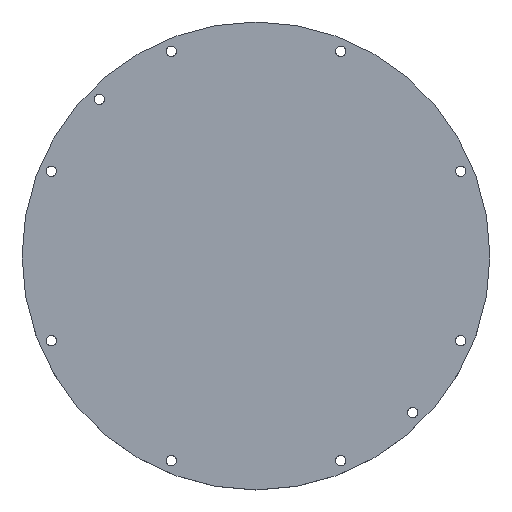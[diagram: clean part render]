
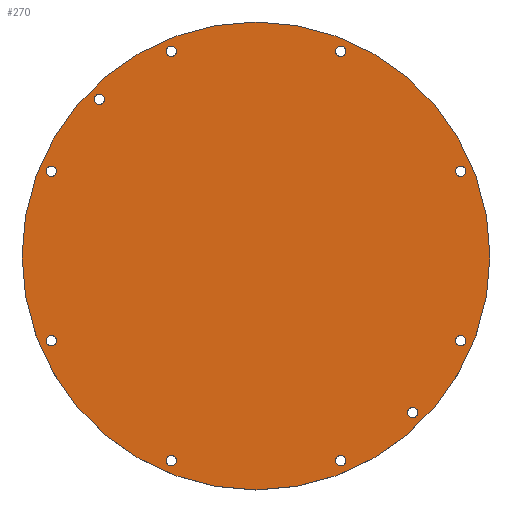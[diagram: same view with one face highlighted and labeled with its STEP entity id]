
A CAD part, top view. The second image highlights one B-rep face of the part: STEP entity #270.
In plain terms, the highlighted planar face has unit normal (0, 0, 1).
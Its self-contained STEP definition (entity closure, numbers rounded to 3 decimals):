
#15=FACE_BOUND('',#62,.T.);
#16=FACE_BOUND('',#63,.T.);
#17=FACE_BOUND('',#64,.T.);
#18=FACE_BOUND('',#65,.T.);
#19=FACE_BOUND('',#66,.T.);
#20=FACE_BOUND('',#67,.T.);
#21=FACE_BOUND('',#68,.T.);
#22=FACE_BOUND('',#69,.T.);
#23=FACE_BOUND('',#70,.T.);
#24=FACE_BOUND('',#71,.T.);
#35=PLANE('',#319);
#48=FACE_OUTER_BOUND('',#61,.T.);
#61=EDGE_LOOP('',(#226));
#62=EDGE_LOOP('',(#227));
#63=EDGE_LOOP('',(#228));
#64=EDGE_LOOP('',(#229));
#65=EDGE_LOOP('',(#230));
#66=EDGE_LOOP('',(#231));
#67=EDGE_LOOP('',(#232));
#68=EDGE_LOOP('',(#233));
#69=EDGE_LOOP('',(#234));
#70=EDGE_LOOP('',(#235));
#71=EDGE_LOOP('',(#236));
#105=CIRCLE('',#287,1.65);
#107=CIRCLE('',#290,1.65);
#109=CIRCLE('',#293,1.65);
#111=CIRCLE('',#296,1.65);
#113=CIRCLE('',#299,1.65);
#115=CIRCLE('',#302,1.65);
#117=CIRCLE('',#305,1.65);
#119=CIRCLE('',#308,1.65);
#121=CIRCLE('',#311,1.65);
#123=CIRCLE('',#314,1.65);
#125=CIRCLE('',#317,75.);
#127=VERTEX_POINT('',#406);
#129=VERTEX_POINT('',#412);
#131=VERTEX_POINT('',#418);
#133=VERTEX_POINT('',#424);
#135=VERTEX_POINT('',#430);
#137=VERTEX_POINT('',#436);
#139=VERTEX_POINT('',#442);
#141=VERTEX_POINT('',#448);
#143=VERTEX_POINT('',#454);
#145=VERTEX_POINT('',#460);
#147=VERTEX_POINT('',#466);
#149=EDGE_CURVE('',#127,#127,#105,.T.);
#152=EDGE_CURVE('',#129,#129,#107,.T.);
#155=EDGE_CURVE('',#131,#131,#109,.T.);
#158=EDGE_CURVE('',#133,#133,#111,.T.);
#161=EDGE_CURVE('',#135,#135,#113,.T.);
#164=EDGE_CURVE('',#137,#137,#115,.T.);
#167=EDGE_CURVE('',#139,#139,#117,.T.);
#170=EDGE_CURVE('',#141,#141,#119,.T.);
#173=EDGE_CURVE('',#143,#143,#121,.T.);
#176=EDGE_CURVE('',#145,#145,#123,.T.);
#179=EDGE_CURVE('',#147,#147,#125,.T.);
#226=ORIENTED_EDGE('',*,*,#179,.T.);
#227=ORIENTED_EDGE('',*,*,#176,.T.);
#228=ORIENTED_EDGE('',*,*,#173,.T.);
#229=ORIENTED_EDGE('',*,*,#170,.T.);
#230=ORIENTED_EDGE('',*,*,#167,.T.);
#231=ORIENTED_EDGE('',*,*,#164,.T.);
#232=ORIENTED_EDGE('',*,*,#161,.T.);
#233=ORIENTED_EDGE('',*,*,#158,.T.);
#234=ORIENTED_EDGE('',*,*,#155,.T.);
#235=ORIENTED_EDGE('',*,*,#152,.T.);
#236=ORIENTED_EDGE('',*,*,#149,.T.);
#270=ADVANCED_FACE('',(#48,#15,#16,#17,#18,#19,#20,#21,#22,#23,#24),#35,
 .T.);
#287=AXIS2_PLACEMENT_3D('',#407,#325,#326);
#290=AXIS2_PLACEMENT_3D('',#413,#332,#333);
#293=AXIS2_PLACEMENT_3D('',#419,#339,#340);
#296=AXIS2_PLACEMENT_3D('',#425,#346,#347);
#299=AXIS2_PLACEMENT_3D('',#431,#353,#354);
#302=AXIS2_PLACEMENT_3D('',#437,#360,#361);
#305=AXIS2_PLACEMENT_3D('',#443,#367,#368);
#308=AXIS2_PLACEMENT_3D('',#449,#374,#375);
#311=AXIS2_PLACEMENT_3D('',#455,#381,#382);
#314=AXIS2_PLACEMENT_3D('',#461,#388,#389);
#317=AXIS2_PLACEMENT_3D('',#467,#395,#396);
#319=AXIS2_PLACEMENT_3D('',#471,#400,#401);
#325=DIRECTION('center_axis',(0.,0.,-1.));
#326=DIRECTION('ref_axis',(1.,0.,0.));
#332=DIRECTION('center_axis',(0.,0.,-1.));
#333=DIRECTION('ref_axis',(1.,0.,0.));
#339=DIRECTION('center_axis',(0.,0.,-1.));
#340=DIRECTION('ref_axis',(1.,0.,0.));
#346=DIRECTION('center_axis',(0.,0.,-1.));
#347=DIRECTION('ref_axis',(1.,0.,0.));
#353=DIRECTION('center_axis',(0.,0.,-1.));
#354=DIRECTION('ref_axis',(1.,0.,0.));
#360=DIRECTION('center_axis',(0.,0.,-1.));
#361=DIRECTION('ref_axis',(1.,0.,0.));
#367=DIRECTION('center_axis',(0.,0.,-1.));
#368=DIRECTION('ref_axis',(1.,0.,0.));
#374=DIRECTION('center_axis',(0.,0.,-1.));
#375=DIRECTION('ref_axis',(1.,0.,0.));
#381=DIRECTION('center_axis',(0.,0.,-1.));
#382=DIRECTION('ref_axis',(1.,0.,0.));
#388=DIRECTION('center_axis',(0.,0.,-1.));
#389=DIRECTION('ref_axis',(1.,0.,0.));
#395=DIRECTION('center_axis',(0.,0.,1.));
#396=DIRECTION('ref_axis',(1.,0.,0.));
#400=DIRECTION('center_axis',(0.,0.,1.));
#401=DIRECTION('ref_axis',(1.,0.,0.));
#406=CARTESIAN_POINT('',(63.945,-27.055,15.));
#407=CARTESIAN_POINT('Origin',(65.595,-27.055,15.));
#412=CARTESIAN_POINT('',(25.521,65.711,15.));
#413=CARTESIAN_POINT('Origin',(27.171,65.711,15.));
#418=CARTESIAN_POINT('',(-51.855,50.32,15.));
#419=CARTESIAN_POINT('Origin',(-50.205,50.32,15.));
#424=CARTESIAN_POINT('',(63.945,27.286,15.));
#425=CARTESIAN_POINT('Origin',(65.595,27.286,15.));
#430=CARTESIAN_POINT('',(-28.821,-65.48,15.));
#431=CARTESIAN_POINT('Origin',(-27.171,-65.48,15.));
#436=CARTESIAN_POINT('',(-28.821,65.711,15.));
#437=CARTESIAN_POINT('Origin',(-27.171,65.711,15.));
#442=CARTESIAN_POINT('',(-67.245,27.286,15.));
#443=CARTESIAN_POINT('Origin',(-65.595,27.286,15.));
#448=CARTESIAN_POINT('',(48.555,-50.089,15.));
#449=CARTESIAN_POINT('Origin',(50.205,-50.089,15.));
#454=CARTESIAN_POINT('',(-67.245,-27.055,15.));
#455=CARTESIAN_POINT('Origin',(-65.595,-27.055,15.));
#460=CARTESIAN_POINT('',(25.521,-65.48,15.));
#461=CARTESIAN_POINT('Origin',(27.171,-65.48,15.));
#466=CARTESIAN_POINT('',(-75.,0.116,15.));
#467=CARTESIAN_POINT('Origin',(0.,0.116,15.));
#471=CARTESIAN_POINT('Origin',(0.,0.116,15.));
